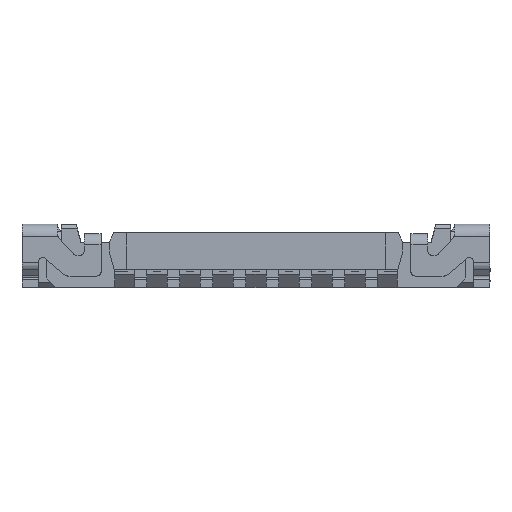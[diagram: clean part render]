
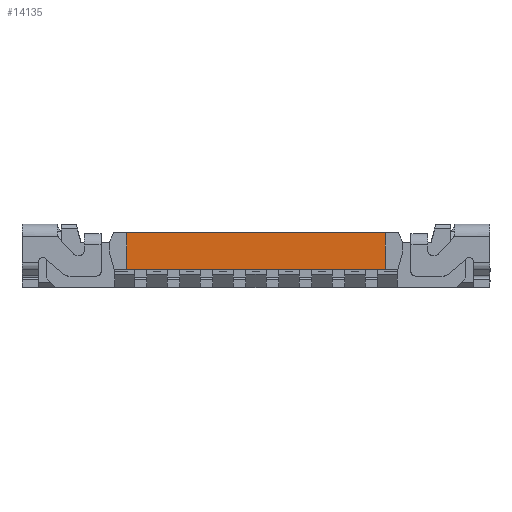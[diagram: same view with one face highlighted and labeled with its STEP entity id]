
A CAD part, top view. The second image highlights one B-rep face of the part: STEP entity #14135.
In plain terms, the highlighted planar face has unit normal (0, 0, 1).
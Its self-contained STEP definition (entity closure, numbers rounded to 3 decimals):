
#355 = DIRECTION ( 'NONE',  ( 0., -1., 0. ) ) ;
#825 = ORIENTED_EDGE ( 'NONE', *, *, #10849, .F. ) ;
#1263 = DIRECTION ( 'NONE',  ( -1., 0., 0. ) ) ;
#1905 = LINE ( 'NONE', #14482, #5985 ) ;
#2454 = VERTEX_POINT ( 'NONE', #13770 ) ;
#2638 = CARTESIAN_POINT ( 'NONE',  ( 0.15, 0.19, 0.99 ) ) ;
#4375 = FACE_OUTER_BOUND ( 'NONE', #19880, .T. ) ;
#4578 = VECTOR ( 'NONE', #1263, 1000. ) ;
#4714 = LINE ( 'NONE', #10996, #12590 ) ;
#4777 = PLANE ( 'NONE',  #12242 ) ;
#5197 = CARTESIAN_POINT ( 'NONE',  ( -2.6, 0.58, 0.99 ) ) ;
#5210 = VERTEX_POINT ( 'NONE', #2638 ) ;
#5583 = ORIENTED_EDGE ( 'NONE', *, *, #9554, .F. ) ;
#5985 = VECTOR ( 'NONE', #355, 1000. ) ;
#6469 = CARTESIAN_POINT ( 'NONE',  ( 0.15, 0.58, 0.99 ) ) ;
#9493 = CARTESIAN_POINT ( 'NONE',  ( -7.525, 0.17, 0.99 ) ) ;
#9554 = EDGE_CURVE ( 'NONE', #16211, #5210, #12976, .T. ) ;
#9927 = VERTEX_POINT ( 'NONE', #5197 ) ;
#9977 = EDGE_CURVE ( 'NONE', #9927, #2454, #1905, .T. ) ;
#10849 = EDGE_CURVE ( 'NONE', #5210, #2454, #4714, .T. ) ;
#10996 = CARTESIAN_POINT ( 'NONE',  ( -7.875, 0.19, 0.99 ) ) ;
#11060 = DIRECTION ( 'NONE',  ( 0., 0., -1. ) ) ;
#11618 = CARTESIAN_POINT ( 'NONE',  ( 0.15, 0.19, 0.99 ) ) ;
#12242 = AXIS2_PLACEMENT_3D ( 'NONE', #9493, #11060, #15518 ) ;
#12495 = LINE ( 'NONE', #15406, #4578 ) ;
#12552 = DIRECTION ( 'NONE',  ( -1., 0., 0. ) ) ;
#12590 = VECTOR ( 'NONE', #12552, 1000. ) ;
#12976 = LINE ( 'NONE', #11618, #14866 ) ;
#13770 = CARTESIAN_POINT ( 'NONE',  ( -2.6, 0.19, 0.99 ) ) ;
#14083 = ORIENTED_EDGE ( 'NONE', *, *, #20364, .T. ) ;
#14135 = ADVANCED_FACE ( 'NONE', ( #4375 ), #4777, .F. ) ;
#14482 = CARTESIAN_POINT ( 'NONE',  ( -2.6, 0.19, 0.99 ) ) ;
#14866 = VECTOR ( 'NONE', #19288, 1000. ) ;
#15145 = ORIENTED_EDGE ( 'NONE', *, *, #9977, .T. ) ;
#15406 = CARTESIAN_POINT ( 'NONE',  ( -7.525, 0.58, 0.99 ) ) ;
#15518 = DIRECTION ( 'NONE',  ( -1., 0., 0. ) ) ;
#16211 = VERTEX_POINT ( 'NONE', #6469 ) ;
#19288 = DIRECTION ( 'NONE',  ( 0., -1., 0. ) ) ;
#19880 = EDGE_LOOP ( 'NONE', ( #825, #5583, #14083, #15145 ) ) ;
#20364 = EDGE_CURVE ( 'NONE', #16211, #9927, #12495, .T. ) ;
